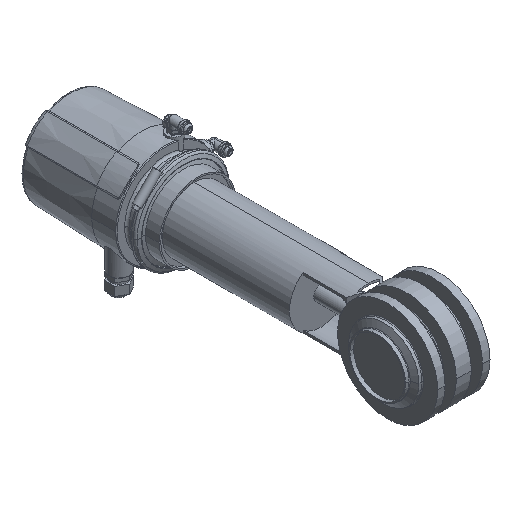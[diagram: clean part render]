
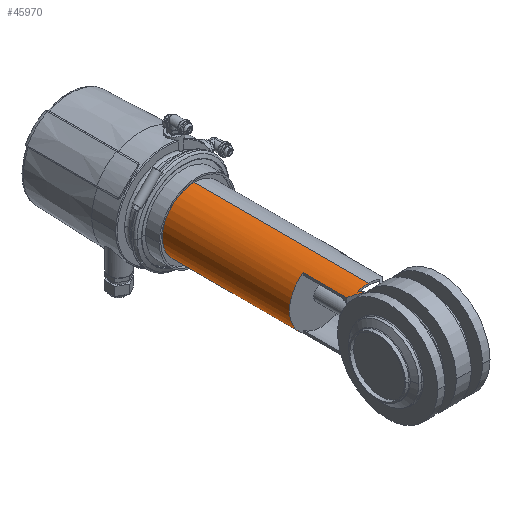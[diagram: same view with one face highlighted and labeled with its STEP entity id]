
A CAD part, isometric view. The second image highlights one B-rep face of the part: STEP entity #45970.
In plain terms, the highlighted cylindrical face has radius 42.5 mm (diameter 85 mm), a partial arc.
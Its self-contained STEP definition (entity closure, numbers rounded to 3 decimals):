
#7940=CARTESIAN_POINT('',(-547.95,39.267,
-41.307));
#7950=VERTEX_POINT('',#7940);
#26570=CARTESIAN_POINT('',(-547.95,110.332,
-41.307));
#26580=DIRECTION('',(0.,-1.,0.));
#26590=VECTOR('',#26580,1.);
#26600=LINE('',#26570,#26590);
#26610=CARTESIAN_POINT('',(-547.95,38.339,
-41.307));
#26620=VERTEX_POINT('',#26610);
#26630=EDGE_CURVE('',#7950,#26620,#26600,.T.);
#37960=CARTESIAN_POINT('',(-550.45,44.375,
40.62));
#37970=VERTEX_POINT('',#37960);
#38000=CARTESIAN_POINT('',(-537.95,31.875,
0.));
#38010=DIRECTION('',(0.707,0.707,0.));
#38020=DIRECTION('',(-0.707,0.707,0.));
#38030=AXIS2_PLACEMENT_3D('',#38000,#38010,#38020);
#38040=ELLIPSE('',#38030,60.104,42.5);
#38050=CARTESIAN_POINT('',(-553.007,46.932,
39.743));
#38060=VERTEX_POINT('',#38050);
#38070=EDGE_CURVE('',#38060,#37970,#38040,.T.);
#39470=CARTESIAN_POINT('',(-561.95,52.339,
35.075));
#39480=VERTEX_POINT('',#39470);
#39850=CARTESIAN_POINT('',(-561.95,110.332,
35.075));
#39860=VERTEX_POINT('',#39850);
#39890=CARTESIAN_POINT('',(-561.95,307.194,
35.075));
#39900=DIRECTION('',(0.,-1.,0.));
#39910=VECTOR('',#39900,1.);
#39920=LINE('',#39890,#39910);
#39930=EDGE_CURVE('',#39860,#39480,#39920,.T.);
#42300=CARTESIAN_POINT('',(-547.95,41.875,
-41.307));
#42310=VERTEX_POINT('',#42300);
#42340=CARTESIAN_POINT('',(-547.95,307.194,
-41.307));
#42350=DIRECTION('',(0.,-1.,0.));
#42360=VECTOR('',#42350,1.);
#42370=LINE('',#42340,#42360);
#42380=EDGE_CURVE('',#42310,#7950,#42370,.T.);
#42720=CARTESIAN_POINT('',(-553.007,46.932,
-39.743));
#42730=VERTEX_POINT('',#42720);
#42760=CARTESIAN_POINT('',(-537.95,31.875,
0.));
#42770=DIRECTION('',(0.707,0.707,0.));
#42780=DIRECTION('',(0.707,-0.707,0.));
#42790=AXIS2_PLACEMENT_3D('',#42760,#42770,#42780);
#42800=ELLIPSE('',#42790,60.104,42.5);
#42810=EDGE_CURVE('',#42310,#42730,#42800,.T.);
#44010=CARTESIAN_POINT('',(-537.95,46.932,
0.));
#44020=DIRECTION('',(0.,-1.,0.));
#44030=DIRECTION('',(0.,0.,-1.));
#44040=AXIS2_PLACEMENT_3D('',#44010,#44020,#44030);
#44050=CIRCLE('',#44040,42.5);
#44060=CARTESIAN_POINT('',(-537.95,46.932,-42.5));
#44070=VERTEX_POINT('',#44060);
#44100=EDGE_CURVE('',#42730,#44070,#44050,.T.);
#44230=CARTESIAN_POINT('',(-561.95,307.194,
-35.075));
#44240=DIRECTION('',(0.,-1.,0.));
#44250=VECTOR('',#44240,1.);
#44260=LINE('',#44230,#44250);
#44270=CARTESIAN_POINT('',(-561.95,110.332,
-35.075));
#44280=VERTEX_POINT('',#44270);
#44290=CARTESIAN_POINT('',(-561.95,52.339,
-35.075));
#44300=VERTEX_POINT('',#44290);
#44310=EDGE_CURVE('',#44280,#44300,#44260,.T.);
#44960=CARTESIAN_POINT('',(-537.95,110.332,
0.));
#44970=DIRECTION('',(0.,-1.,0.));
#44980=DIRECTION('',(0.,0.,-1.));
#44990=AXIS2_PLACEMENT_3D('',#44960,#44970,#44980);
#45000=CYLINDRICAL_SURFACE('',#44990,42.5);
#45010=CARTESIAN_POINT('',(-537.95,110.332,42.5));
#45020=DIRECTION('',(0.,-1.,0.));
#45030=VECTOR('',#45020,1.);
#45040=LINE('',#45010,#45030);
#45050=CARTESIAN_POINT('',(-537.95,280.332,42.5));
#45060=VERTEX_POINT('',#45050);
#45070=CARTESIAN_POINT('',(-537.95,46.932,42.5));
#45080=VERTEX_POINT('',#45070);
#45090=EDGE_CURVE('',#45060,#45080,#45040,.T.);
#45100=ORIENTED_EDGE('',*,*,#45090,.F.);
#45110=CARTESIAN_POINT('',(-537.95,46.932,
0.));
#45120=DIRECTION('',(0.,-1.,0.));
#45130=DIRECTION('',(0.,0.,1.));
#45140=AXIS2_PLACEMENT_3D('',#45110,#45120,#45130);
#45150=CIRCLE('',#45140,42.5);
#45160=EDGE_CURVE('',#45080,#38060,#45150,.T.);
#45170=ORIENTED_EDGE('',*,*,#45160,.F.);
#45180=ORIENTED_EDGE('',*,*,#38070,.F.);
#45190=CARTESIAN_POINT('',(-550.45,307.194,
40.62));
#45200=DIRECTION('',(0.,-1.,0.));
#45210=VECTOR('',#45200,1.);
#45220=LINE('',#45190,#45210);
#45230=CARTESIAN_POINT('',(-550.45,40.839,
40.62));
#45240=VERTEX_POINT('',#45230);
#45250=EDGE_CURVE('',#37970,#45240,#45220,.T.);
#45260=ORIENTED_EDGE('',*,*,#45250,.F.);
#45270=CARTESIAN_POINT('',(-537.95,28.339,
0.));
#45280=DIRECTION('',(-0.707,-0.707,0.));
#45290=DIRECTION('',(0.707,-0.707,0.));
#45300=AXIS2_PLACEMENT_3D('',#45270,#45280,#45290);
#45310=ELLIPSE('',#45300,60.104,42.5);
#45320=EDGE_CURVE('',#45240,#39480,#45310,.T.);
#45330=ORIENTED_EDGE('',*,*,#45320,.F.);
#45340=ORIENTED_EDGE('',*,*,#39930,.T.);
#45350=CARTESIAN_POINT('',(-537.95,110.332,
0.));
#45360=DIRECTION('',(0.,-1.,0.));
#45370=DIRECTION('',(0.,0.,1.));
#45380=AXIS2_PLACEMENT_3D('',#45350,#45360,#45370);
#45390=CIRCLE('',#45380,42.5);
#45400=EDGE_CURVE('',#39860,#44280,#45390,.T.);
#45410=ORIENTED_EDGE('',*,*,#45400,.F.);
#45420=ORIENTED_EDGE('',*,*,#44310,.F.);
#45430=CARTESIAN_POINT('',(-537.95,28.339,
0.));
#45440=DIRECTION('',(0.707,0.707,0.));
#45450=DIRECTION('',(0.707,-0.707,0.));
#45460=AXIS2_PLACEMENT_3D('',#45430,#45440,#45450);
#45470=ELLIPSE('',#45460,60.104,42.5);
#45480=CARTESIAN_POINT('',(-550.45,40.839,
-40.62));
#45490=VERTEX_POINT('',#45480);
#45500=EDGE_CURVE('',#45490,#44300,#45470,.T.);
#45510=ORIENTED_EDGE('',*,*,#45500,.T.);
#45520=CARTESIAN_POINT('',(-550.45,307.194,
-40.62));
#45530=DIRECTION('',(0.,-1.,0.));
#45540=VECTOR('',#45530,1.);
#45550=LINE('',#45520,#45540);
#45560=CARTESIAN_POINT('',(-550.45,34.384,
-40.62));
#45570=VERTEX_POINT('',#45560);
#45580=EDGE_CURVE('',#45490,#45570,#45550,.T.);
#45590=ORIENTED_EDGE('',*,*,#45580,.F.);
#45600=CARTESIAN_POINT('',(-537.95,-322.135,
0.));
#45610=DIRECTION('',(0.,-0.113,-0.994));
#45620=DIRECTION('',(0.,0.994,-0.113));
#45630=AXIS2_PLACEMENT_3D('',#45600,#45610,#45620);
#45640=ELLIPSE('',#45630,375.431,42.5);
#45650=CARTESIAN_POINT('',(-548.597,38.987,
-41.145));
#45660=VERTEX_POINT('',#45650);
#45670=EDGE_CURVE('',#45570,#45660,#45640,.T.);
#45680=ORIENTED_EDGE('',*,*,#45670,.F.);
#45690=CARTESIAN_POINT('',(-537.95,28.339,
0.));
#45700=DIRECTION('',(-0.707,-0.707,0.));
#45710=DIRECTION('',(-0.707,0.707,0.));
#45720=AXIS2_PLACEMENT_3D('',#45690,#45700,#45710);
#45730=ELLIPSE('',#45720,60.104,42.5);
#45740=EDGE_CURVE('',#45660,#26620,#45730,.T.);
#45750=ORIENTED_EDGE('',*,*,#45740,.F.);
#45760=ORIENTED_EDGE('',*,*,#26630,.T.);
#45770=ORIENTED_EDGE('',*,*,#42380,.T.);
#45780=ORIENTED_EDGE('',*,*,#42810,.F.);
#45790=ORIENTED_EDGE('',*,*,#44100,.F.);
#45800=CARTESIAN_POINT('',(-537.95,110.332,-42.5));
#45810=DIRECTION('',(0.,-1.,0.));
#45820=VECTOR('',#45810,1.);
#45830=LINE('',#45800,#45820);
#45840=CARTESIAN_POINT('',(-537.95,280.332,-42.5));
#45850=VERTEX_POINT('',#45840);
#45860=EDGE_CURVE('',#45850,#44070,#45830,.T.);
#45870=ORIENTED_EDGE('',*,*,#45860,.T.);
#45880=CARTESIAN_POINT('',(-537.95,280.332,
0.));
#45890=DIRECTION('',(0.,-1.,0.));
#45900=DIRECTION('',(0.,0.,-1.));
#45910=AXIS2_PLACEMENT_3D('',#45880,#45890,#45900);
#45920=CIRCLE('',#45910,42.5);
#45930=EDGE_CURVE('',#45060,#45850,#45920,.T.);
#45940=ORIENTED_EDGE('',*,*,#45930,.T.);
#45950=EDGE_LOOP('',(#45940,#45870,#45790,#45780,#45770,#45760,#45750,
#45680,#45590,#45510,#45420,#45410,#45340,#45330,#45260,#45180,#45170,
#45100));
#45960=FACE_OUTER_BOUND('',#45950,.T.);
#45970=ADVANCED_FACE('',(#45960),#45000,.T.);
